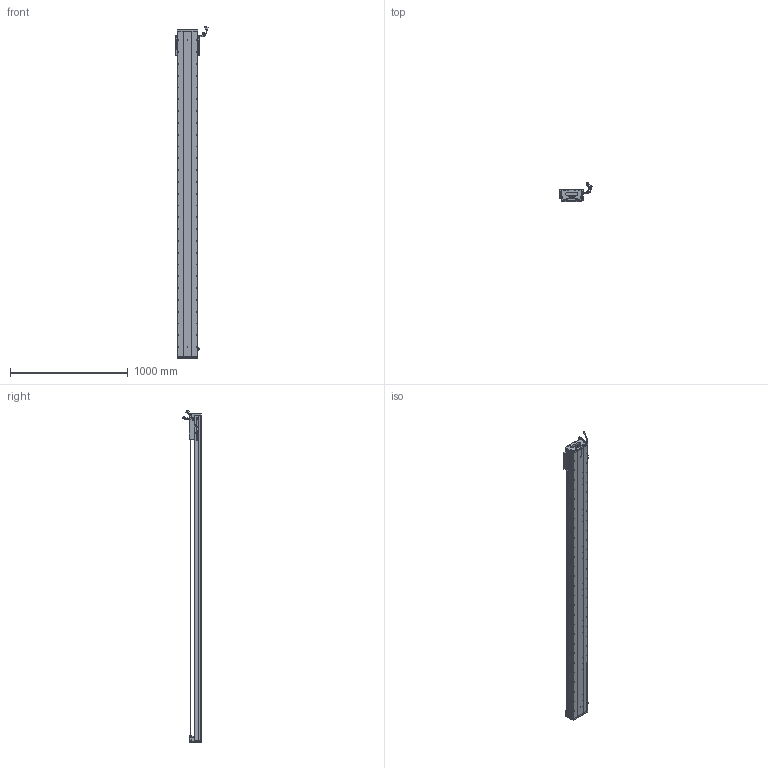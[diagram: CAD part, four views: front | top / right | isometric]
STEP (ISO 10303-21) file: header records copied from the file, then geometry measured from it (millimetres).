
FILE_DESCRIPTION (( 'STEP AP203' ), '1' );
FILE_NAME ('Z2-RY170D-1-L500-B-K.SLDASM_2500.step', '2021-05-17T09:11:06', ( '盈信电脑' ), ( '东莞市道滘镇水果街19号' ), 'SwSTEP 2.0', 'SolidWorks 2016', '' );
FILE_SCHEMA (( 'CONFIG_CONTROL_DESIGN' ));
Length unit declared in the file: millimetre
Products named in the file (36): Z-RY170詩湍狟揤裔; SCREW-M1.7-1; HARNESS; LABEL-Part-1; HARNESS-Part-1; HOLDER0; SHIELDPLATE; Z2-RY170臏賑輸(21遴); SEAL; 170-Z-臏賑輸盄裔(21遴); SEAL-Part-1; Z2-RY170D-1-L500-B-K.SLDASM_2500; 080黍杅芛假蚾釱21遴; COVER; Z-170詩湍傷裔啣; Z2-RY170-L500詩湍145mm遵_2500; 140蚥薯蝶輸; RY170直线电机感应器672光电感应片; HARNESS-Part-2; SCALE-Part-2; PSLH080_PSLF2; Z-RY170詩湍奻揤裔; SCREW-M1.7; PBU_SHEET; Z2-RY170-L500耀郪菁釱_2500; SCALE; 覜茼ん672; SCREW-M1.6-2; 榋妏寠巭燃_暯_M2_2; LABEL; COVER-Part-1; 140雄赽晤鎢ん堤盄; SCREW-M1.6; SCREW-M1.6-1; SCALE-Part-1; SCREW-M1.6-3
Assembly tree (41 placements, depth 4):
  Z2-RY170D-1-L500-B-K.SLDASM_2500
    Z2-RY170-L500耀郪菁釱_2500
    RY170直线电机感应器672光电感应片
    Z2-RY170臏賑輸(21遴)
    覜茼ん672  x3
    PSLH080_PSLF2
      SCALE
        SCALE-Part-1
        SCALE-Part-2
      HARNESS
        HARNESS-Part-1
        HARNESS-Part-2
      LABEL
        LABEL-Part-1
      COVER
        COVER-Part-1
      SEAL
        SEAL-Part-1
      榋妏寠巭燃_暯_M2_2
      SHIELDPLATE
      SCREW-M1.7
      SCREW-M1.7-1
      PBU_SHEET
      SCREW-M1.6
      SCREW-M1.6-1
      SCREW-M1.6-2
      SCREW-M1.6-3
      HOLDER0
    080黍杅芛假蚾釱21遴
    Z2-RY170-L500詩湍145mm遵_2500
    Z-170詩湍傷裔啣  x2
    Z-RY170詩湍奻揤裔  x2
    Z-RY170詩湍狟揤裔  x2
    140蚥薯蝶輸  x2
    170-Z-臏賑輸盄裔(21遴)
    140雄赽晤鎢ん堤盄
Bounding box: 275.29 x 158.11 x 2813.72 mm (x, y, z)
Volume: 13666325.9 mm3; surface area: 3390635.1 mm2
Topology: 36 solids, 36 shells, 4164 faces, 11579 edges, 7227 vertices
Faces by surface type: cylinder 2114, plane 1328, cone 600, torus 69, bspline 53
Entity records: 131875 total; most frequent: CARTESIAN_POINT 37172, ORIENTED_EDGE 19562, DIRECTION 18149, EDGE_CURVE 9781, AXIS2_PLACEMENT_3D 6694, VERTEX_POINT 6345, LINE 4761, VECTOR 4761
